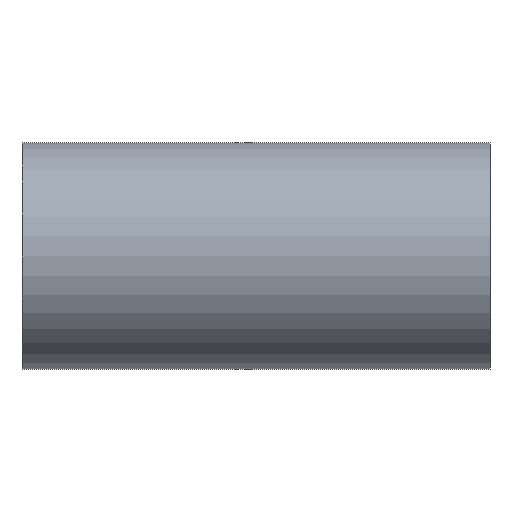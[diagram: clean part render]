
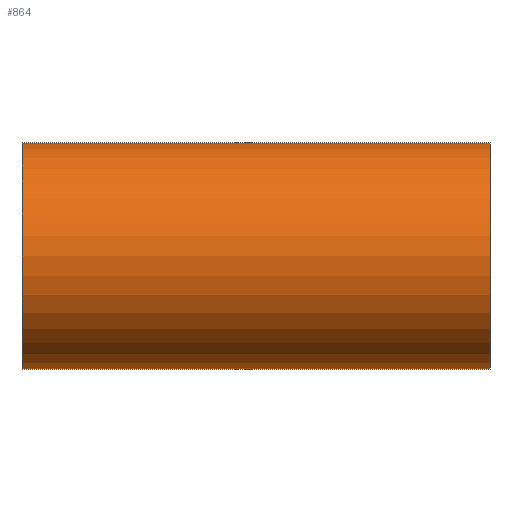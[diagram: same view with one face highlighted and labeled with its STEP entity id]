
A CAD part, front view. The second image highlights one B-rep face of the part: STEP entity #864.
In plain terms, the highlighted cylindrical face has radius 50.8 mm (diameter 101.6 mm), a partial arc.
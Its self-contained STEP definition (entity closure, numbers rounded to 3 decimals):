
#27 = EDGE_CURVE ( 'NONE', #1990, #1321, #1556, .T. ) ;
#103 = FACE_OUTER_BOUND ( 'NONE', #1895, .T. ) ;
#127 = CARTESIAN_POINT ( 'NONE',  ( -104.8, 0., 50.8 ) ) ;
#157 = AXIS2_PLACEMENT_3D ( 'NONE', #676, #866, #827 ) ;
#203 = CYLINDRICAL_SURFACE ( 'NONE', #1908, 50.8 ) ;
#213 = CARTESIAN_POINT ( 'NONE',  ( 104.8, 0., 50.8 ) ) ;
#326 = ORIENTED_EDGE ( 'NONE', *, *, #680, .T. ) ;
#329 = VERTEX_POINT ( 'NONE', #740 ) ;
#340 = DIRECTION ( 'NONE',  ( 1., 0., 0. ) ) ;
#554 = CIRCLE ( 'NONE', #1376, 50.8 ) ;
#566 = EDGE_CURVE ( 'NONE', #329, #1321, #1801, .T. ) ;
#676 = CARTESIAN_POINT ( 'NONE',  ( 104.8, 0., 0. ) ) ;
#680 = EDGE_CURVE ( 'NONE', #1990, #966, #554, .T. ) ;
#699 = VECTOR ( 'NONE', #2049, 1000. ) ;
#740 = CARTESIAN_POINT ( 'NONE',  ( 104.8, 0., -50.8 ) ) ;
#795 = DIRECTION ( 'NONE',  ( 1., 0., 0. ) ) ;
#827 = DIRECTION ( 'NONE',  ( 0., 0., -1. ) ) ;
#864 = ADVANCED_FACE ( 'NONE', ( #103 ), #203, .T. ) ;
#866 = DIRECTION ( 'NONE',  ( -1., 0., 0. ) ) ;
#875 = ORIENTED_EDGE ( 'NONE', *, *, #27, .F. ) ;
#916 = ORIENTED_EDGE ( 'NONE', *, *, #566, .T. ) ;
#966 = VERTEX_POINT ( 'NONE', #1787 ) ;
#1063 = EDGE_CURVE ( 'NONE', #966, #329, #1421, .T. ) ;
#1321 = VERTEX_POINT ( 'NONE', #213 ) ;
#1376 = AXIS2_PLACEMENT_3D ( 'NONE', #1779, #1774, #1756 ) ;
#1421 = LINE ( 'NONE', #2007, #699 ) ;
#1556 = LINE ( 'NONE', #1913, #1628 ) ;
#1573 = ORIENTED_EDGE ( 'NONE', *, *, #1063, .T. ) ;
#1628 = VECTOR ( 'NONE', #795, 1000. ) ;
#1756 = DIRECTION ( 'NONE',  ( 0., 0., -1. ) ) ;
#1774 = DIRECTION ( 'NONE',  ( 1., 0., 0. ) ) ;
#1779 = CARTESIAN_POINT ( 'NONE',  ( -104.8, 0., 0. ) ) ;
#1787 = CARTESIAN_POINT ( 'NONE',  ( -104.8, 0., -50.8 ) ) ;
#1801 = CIRCLE ( 'NONE', #157, 50.8 ) ;
#1895 = EDGE_LOOP ( 'NONE', ( #875, #326, #1573, #916 ) ) ;
#1908 = AXIS2_PLACEMENT_3D ( 'NONE', #2036, #340, #2054 ) ;
#1913 = CARTESIAN_POINT ( 'NONE',  ( -104.8, 0., 50.8 ) ) ;
#1990 = VERTEX_POINT ( 'NONE', #127 ) ;
#2007 = CARTESIAN_POINT ( 'NONE',  ( -104.8, 0., -50.8 ) ) ;
#2036 = CARTESIAN_POINT ( 'NONE',  ( -104.8, 0., 0. ) ) ;
#2049 = DIRECTION ( 'NONE',  ( 1., 0., 0. ) ) ;
#2054 = DIRECTION ( 'NONE',  ( 0., 0., -1. ) ) ;
